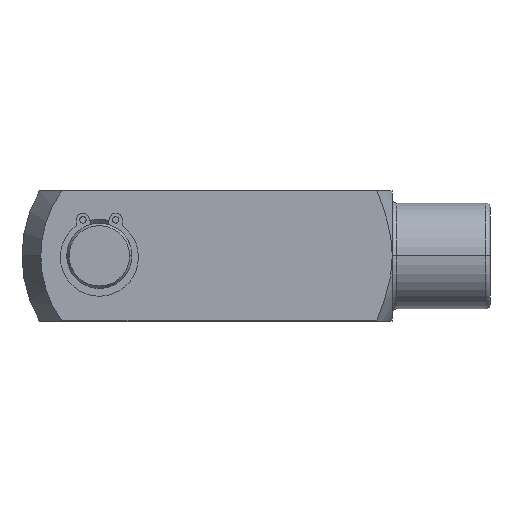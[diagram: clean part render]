
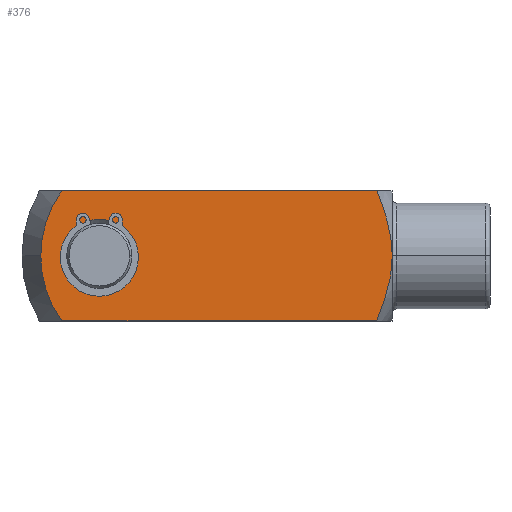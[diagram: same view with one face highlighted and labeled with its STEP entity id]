
A CAD part, top view. The second image highlights one B-rep face of the part: STEP entity #376.
In plain terms, the highlighted planar face has unit normal (0, 0, 1).
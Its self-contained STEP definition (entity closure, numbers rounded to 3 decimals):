
#376 = ADVANCED_FACE ( 'NONE', ( #1042, #1041 ), #1040, .T. ) ;
#377 = EDGE_LOOP ( 'NONE', ( #378, #379 ) ) ;
#378 = ORIENTED_EDGE ( 'NONE', *, *, #2505, .T. ) ;
#379 = ORIENTED_EDGE ( 'NONE', *, *, #380, .T. ) ;
#380 = EDGE_CURVE ( 'NONE', #2510, #2600, #1037, .T. ) ;
#381 = EDGE_LOOP ( 'NONE', ( #2471, #2476, #2526, #2524, #2419, #2576 ) ) ;
#382 = VERTEX_POINT ( 'NONE', #1030 ) ;
#1030 = CARTESIAN_POINT ( 'NONE',  ( -105.22, 16., 16. ) ) ;
#1031 = DIRECTION ( 'NONE',  ( 1., 0., 0. ) ) ;
#1032 = DIRECTION ( 'NONE',  ( 0., 0., -1. ) ) ;
#1033 = CARTESIAN_POINT ( 'NONE',  ( -96., 0., 16. ) ) ;
#1034 = AXIS2_PLACEMENT_3D ( 'NONE', #1033, #1032, #1031 ) ;
#1035 = DIRECTION ( 'NONE',  ( 1., 0., 0. ) ) ;
#1036 = DIRECTION ( 'NONE',  ( 0., 0., 1. ) ) ;
#1037 = CIRCLE ( 'NONE', #1034, 9. ) ;
#1038 = CARTESIAN_POINT ( 'NONE',  ( -115., -16., 16. ) ) ;
#1039 = AXIS2_PLACEMENT_3D ( 'NONE', #1038, #1036, #1035 ) ;
#1040 = PLANE ( 'NONE',  #1039 ) ;
#1041 = FACE_OUTER_BOUND ( 'NONE', #381, .T. ) ;
#1042 = FACE_BOUND ( 'NONE', #377, .T. ) ;
#1167 = CARTESIAN_POINT ( 'NONE',  ( -27.826, -16., 16. ) ) ;
#1288 = CARTESIAN_POINT ( 'NONE',  ( -27.826, 16., 16. ) ) ;
#1289 = DIRECTION ( 'NONE',  ( 1., 0., 0. ) ) ;
#1290 = DIRECTION ( 'NONE',  ( 0., 0., 1. ) ) ;
#1291 = CARTESIAN_POINT ( 'NONE',  ( -83., 0., 16. ) ) ;
#1292 = AXIS2_PLACEMENT_3D ( 'NONE', #1291, #1290, #1289 ) ;
#1293 = CIRCLE ( 'NONE', #1292, 27.381 ) ;
#1294 = DIRECTION ( 'NONE',  ( 1., 0., 0. ) ) ;
#1295 = VECTOR ( 'NONE', #1294, 1000. ) ;
#1296 = CARTESIAN_POINT ( 'NONE',  ( -115., 16., 16. ) ) ;
#1297 = LINE ( 'NONE', #1296, #1295 ) ;
#1315 = CARTESIAN_POINT ( 'NONE',  ( -105.22, -16., 16. ) ) ;
#1316 = CARTESIAN_POINT ( 'NONE',  ( -110.381, 0., 16. ) ) ;
#1317 = DIRECTION ( 'NONE',  ( 1., 0., 0. ) ) ;
#1318 = DIRECTION ( 'NONE',  ( 0., 0., 1. ) ) ;
#1319 = CARTESIAN_POINT ( 'NONE',  ( -83., 0., 16. ) ) ;
#1320 = AXIS2_PLACEMENT_3D ( 'NONE', #1319, #1318, #1317 ) ;
#1321 = CIRCLE ( 'NONE', #1320, 27.381 ) ;
#1334 = DIRECTION ( 'NONE',  ( 1., 0., 0. ) ) ;
#1335 = DIRECTION ( 'NONE',  ( 0., 0., -1. ) ) ;
#1336 = AXIS2_PLACEMENT_3D ( 'NONE', #1354, #1335, #1334 ) ;
#1337 = CIRCLE ( 'NONE', #1336, 9. ) ;
#1354 = CARTESIAN_POINT ( 'NONE',  ( -96., 0., 16. ) ) ;
#1366 = CARTESIAN_POINT ( 'NONE',  ( -24., 0., 16. ) ) ;
#1367 = CARTESIAN_POINT ( 'NONE',  ( -24., 0.696, 16. ) ) ;
#1368 = CARTESIAN_POINT ( 'NONE',  ( -24.027, 1.395, 16. ) ) ;
#1369 = CARTESIAN_POINT ( 'NONE',  ( -24.13, 2.776, 16. ) ) ;
#1370 = CARTESIAN_POINT ( 'NONE',  ( -24.206, 3.461, 16. ) ) ;
#1371 = CARTESIAN_POINT ( 'NONE',  ( -24.501, 5.503, 16. ) ) ;
#1372 = CARTESIAN_POINT ( 'NONE',  ( -24.787, 6.845, 16. ) ) ;
#1373 = CARTESIAN_POINT ( 'NONE',  ( -25.485, 9.502, 16. ) ) ;
#1374 = CARTESIAN_POINT ( 'NONE',  ( -25.897, 10.817, 16. ) ) ;
#1375 = CARTESIAN_POINT ( 'NONE',  ( -26.58, 12.776, 16. ) ) ;
#1376 = CARTESIAN_POINT ( 'NONE',  ( -26.819, 13.427, 16. ) ) ;
#1377 = CARTESIAN_POINT ( 'NONE',  ( -27.311, 14.719, 16. ) ) ;
#1378 = CARTESIAN_POINT ( 'NONE',  ( -27.566, 15.361, 16. ) ) ;
#1379 = CARTESIAN_POINT ( 'NONE',  ( -27.826, 16., 16. ) ) ;
#1384 = B_SPLINE_CURVE_WITH_KNOTS ( 'NONE', 3,
 ( #1379, #1378, #1377, #1376, #1375, #1374, #1373, #1372, #1371, #1370, #1369, #1368, #1367, #1366 ),
 .UNSPECIFIED., .F., .F.,
 ( 4, 2, 2, 2, 2, 2, 4 ),
 ( 0.048, 0.05, 0.052, 0.056, 0.061, 0.063, 0.065 ),
 .UNSPECIFIED. ) ;
#1385 = CARTESIAN_POINT ( 'NONE',  ( -105., 0., 16. ) ) ;
#1401 = DIRECTION ( 'NONE',  ( 1., 0., 0. ) ) ;
#1402 = VECTOR ( 'NONE', #1401, 1000. ) ;
#1403 = CARTESIAN_POINT ( 'NONE',  ( -115., -16., 16. ) ) ;
#1404 = LINE ( 'NONE', #1403, #1402 ) ;
#1405 = CARTESIAN_POINT ( 'NONE',  ( -27.826, -16., 16. ) ) ;
#1406 = CARTESIAN_POINT ( 'NONE',  ( -27.303, -14.719, 16. ) ) ;
#1407 = CARTESIAN_POINT ( 'NONE',  ( -26.805, -13.423, 16. ) ) ;
#1408 = CARTESIAN_POINT ( 'NONE',  ( -25.893, -10.806, 16. ) ) ;
#1409 = CARTESIAN_POINT ( 'NONE',  ( -25.481, -9.489, 16. ) ) ;
#1410 = CARTESIAN_POINT ( 'NONE',  ( -24.783, -6.831, 16. ) ) ;
#1411 = CARTESIAN_POINT ( 'NONE',  ( -24.499, -5.489, 16. ) ) ;
#1412 = CARTESIAN_POINT ( 'NONE',  ( -24.107, -2.772, 16. ) ) ;
#1413 = CARTESIAN_POINT ( 'NONE',  ( -24., -1.396, 16. ) ) ;
#1414 = CARTESIAN_POINT ( 'NONE',  ( -24., 0., 16. ) ) ;
#1419 = B_SPLINE_CURVE_WITH_KNOTS ( 'NONE', 3,
 ( #1414, #1413, #1412, #1411, #1410, #1409, #1408, #1407, #1406, #1405 ),
 .UNSPECIFIED., .F., .F.,
 ( 4, 2, 2, 2, 4 ),
 ( 0.065, 0.069, 0.073, 0.077, 0.081 ),
 .UNSPECIFIED. ) ;
#1497 = CARTESIAN_POINT ( 'NONE',  ( -24., 0., 16. ) ) ;
#1529 = CARTESIAN_POINT ( 'NONE',  ( -87., 0., 16. ) ) ;
#2419 = ORIENTED_EDGE ( 'NONE', *, *, #2518, .F. ) ;
#2420 = VERTEX_POINT ( 'NONE', #1167 ) ;
#2471 = ORIENTED_EDGE ( 'NONE', *, *, #2472, .F. ) ;
#2472 = EDGE_CURVE ( 'NONE', #382, #2475, #1297, .T. ) ;
#2474 = EDGE_CURVE ( 'NONE', #382, #2488, #1293, .T. ) ;
#2475 = VERTEX_POINT ( 'NONE', #1288 ) ;
#2476 = ORIENTED_EDGE ( 'NONE', *, *, #2474, .T. ) ;
#2487 = EDGE_CURVE ( 'NONE', #2488, #2489, #1321, .T. ) ;
#2488 = VERTEX_POINT ( 'NONE', #1316 ) ;
#2489 = VERTEX_POINT ( 'NONE', #1315 ) ;
#2505 = EDGE_CURVE ( 'NONE', #2600, #2510, #1337, .T. ) ;
#2510 = VERTEX_POINT ( 'NONE', #1385 ) ;
#2511 = EDGE_CURVE ( 'NONE', #2475, #2581, #1384, .T. ) ;
#2518 = EDGE_CURVE ( 'NONE', #2581, #2420, #1419, .T. ) ;
#2524 = ORIENTED_EDGE ( 'NONE', *, *, #2525, .T. ) ;
#2525 = EDGE_CURVE ( 'NONE', #2489, #2420, #1404, .T. ) ;
#2526 = ORIENTED_EDGE ( 'NONE', *, *, #2487, .T. ) ;
#2576 = ORIENTED_EDGE ( 'NONE', *, *, #2511, .F. ) ;
#2581 = VERTEX_POINT ( 'NONE', #1497 ) ;
#2600 = VERTEX_POINT ( 'NONE', #1529 ) ;
